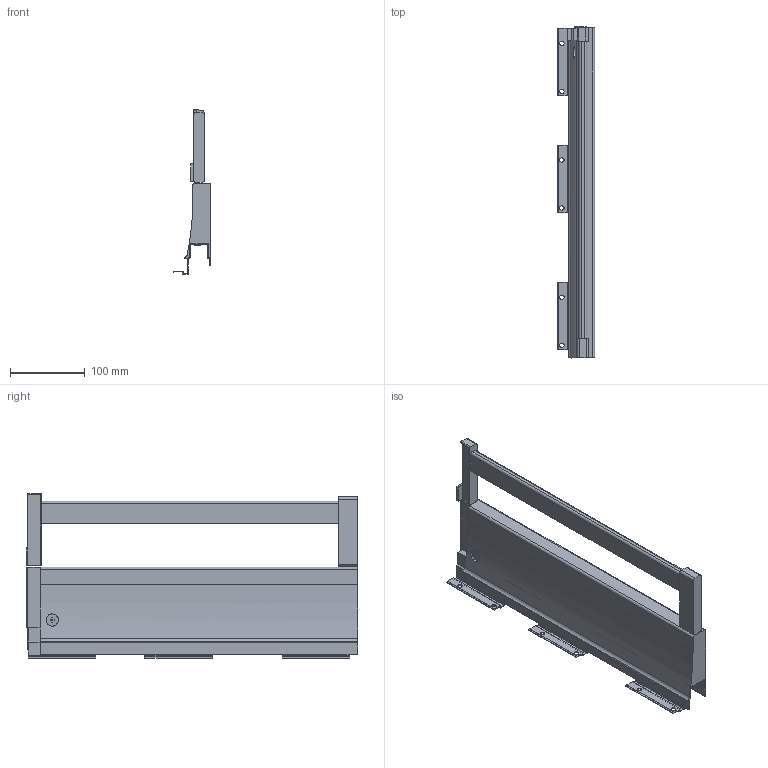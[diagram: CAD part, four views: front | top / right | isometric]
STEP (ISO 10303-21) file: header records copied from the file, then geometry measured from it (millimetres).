
FILE_DESCRIPTION (( 'STEP AP214' ), '1' );
FILE_NAME ('_XP Agantis Dekorseite H127 NL450 RE Rechteckreling.step', '2010-07-08T06:24:16', ( 'grass' ), ( '' ), 'SwSTEP 2.0', 'SolidWorks 2010', '' );
FILE_SCHEMA (( 'AUTOMOTIVE_DESIGN' ));
Length unit declared in the file: millimetre
Products named in the file (1): _XP Agantis Dekorseite H127 NL450 RE Rechteckreling
Bounding box: 50.01 x 442.45 x 219 mm (x, y, z)
Volume: 1142222.2 mm3; surface area: 225487.5 mm2
Topology: 2 solids, 2 shells, 183 faces, 522 edges, 342 vertices
Faces by surface type: plane 142, cylinder 41
Entity records: 6055 total; most frequent: CARTESIAN_POINT 1135, ORIENTED_EDGE 1044, DIRECTION 969, EDGE_CURVE 522, LINE 439, VECTOR 439, VERTEX_POINT 342, AXIS2_PLACEMENT_3D 265
